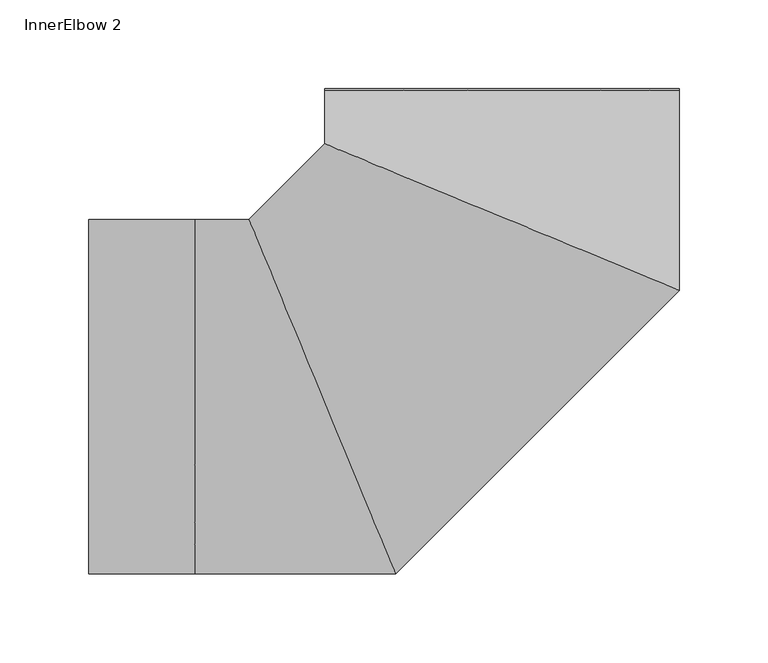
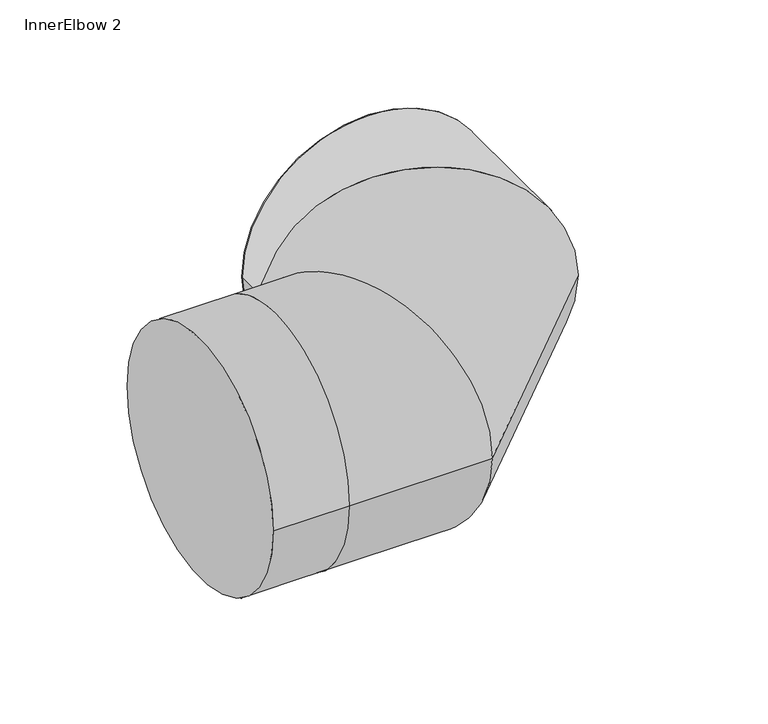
"""IFC4 building model written with IfcOpenShell, lengths in millimetres: pipe fitting geometry, CADS_Jeremias_InnerElbowSocket1 : InnerElbow 2."""

from ifc_helpers import new_model, si_unit, frame, origin, place, context, project, spatial, circle_curve, ellipse_curve, source, transform, mapped, element, save
from ifc_brep_helpers import plane_surface, cylinder_surface, advanced_brep


def innerelbow_2_ab31b819(model_context):
    return source(origin(), model_context, "Body", "AdvancedBrep", [
        advanced_brep(
        [(-233.2842712, -100.0, 0.0), (-233.2842712, 100.0, 0.0), (-173.2842712, -100.0, 0.0), (-173.2842712, 100.0, 0.0), (100.0, 174.0842712, 0.0), (-100.0, 174.0842712, 0.0), (-100.0, 173.2842712, 0.0), (100.0, 173.2842712, 0.0), (-60.0862197, -100.0, 0.0), (-142.9289322, 100.0, 0.0), (100.0, 60.0862197, 0.0), (-100.0, 142.9289322, 0.0)],
        [
            (0, 1, circle_curve(frame((-233.2842712, 0.0, 0.0), z_axis=(-1.0, 0.0, 0.0), x_axis=(0.0, 1.0, 0.0)), 100.0)),
            (1, 0, circle_curve(frame((-233.2842712, 0.0, 0.0), z_axis=(-1.0, 0.0, 0.0), x_axis=(0.0, 1.0, 0.0)), 100.0)),
            (0, 2),
            (2, 3, circle_curve(frame((-173.2842712, 0.0, 0.0), z_axis=(-1.0, 0.0, 0.0), x_axis=(0.0, 1.0, 0.0)), 100.0)),
            (3, 1),
            (3, 2, circle_curve(frame((-173.2842712, 0.0, 0.0), z_axis=(-1.0, 0.0, 0.0), x_axis=(0.0, 1.0, 0.0)), 100.0)),
            (4, 5, circle_curve(frame((0.0, 174.0842712, 0.0), z_axis=(0.0, 1.0, 0.0), x_axis=(-1.0, 0.0, 0.0)), 100.0)),
            (5, 4, circle_curve(frame((0.0, 174.0842712, 0.0), z_axis=(0.0, 1.0, 0.0), x_axis=(-1.0, 0.0, 0.0)), 100.0)),
            (6, 7, circle_curve(frame((0.0, 173.2842712, 0.0), z_axis=(0.0, 1.0, 0.0), x_axis=(-1.0, 0.0, 0.0)), 100.0)),
            (7, 4),
            (5, 6),
            (7, 6, circle_curve(frame((0.0, 173.2842712, 0.0), z_axis=(0.0, 1.0, 0.0), x_axis=(-1.0, 0.0, 0.0)), 100.0)),
            (2, 8),
            (8, 9, ellipse_curve(frame((-101.507576, 0.0, 0.0), z_axis=(-0.9238795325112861, -0.3826834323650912, 0.0), x_axis=(-0.38268343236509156, 0.9238795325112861, 0.0)), 108.23922, 100.0)),
            (9, 3),
            (9, 8, ellipse_curve(frame((-101.507576, 0.0, 0.0), z_axis=(-0.9238795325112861, -0.3826834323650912, 0.0), x_axis=(-0.38268343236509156, 0.9238795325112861, 0.0)), 108.23922, 100.0)),
            (8, 10),
            (10, 11, ellipse_curve(frame((0.0, 101.507576, 0.0), z_axis=(-0.382683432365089, -0.9238795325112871, 0.0), x_axis=(-0.9238795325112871, 0.38268343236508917, 0.0)), 108.23922, 100.0)),
            (11, 9),
            (11, 10, ellipse_curve(frame((0.0, 101.507576, 0.0), z_axis=(-0.382683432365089, -0.9238795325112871, 0.0), x_axis=(-0.9238795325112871, 0.38268343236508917, 0.0)), 108.23922, 100.0)),
            (10, 7),
            (6, 11),
        ],
        [
            plane_surface(frame((-233.2842712, 0.0, 0.0), z_axis=(-1.0, 0.0, 0.0), x_axis=(0.0, 0.0, 1.0))),
            cylinder_surface(frame((-233.2842712, 0.0, 0.0), z_axis=(-1.0, 0.0, 0.0), x_axis=(0.0, 1.0, 0.0)), 100.0),
            plane_surface(frame((0.0, 174.0842712, 0.0), z_axis=(0.0, 1.0, 0.0), x_axis=(0.0, 0.0, 1.0))),
            cylinder_surface(frame((0.0, 173.2842712, 0.0), z_axis=(0.0, -1.0, 0.0), x_axis=(-1.0, 0.0, 0.0)), 100.0),
            cylinder_surface(frame((-173.2842712, 0.0, 0.0), z_axis=(-1.0, 0.0, 0.0), x_axis=(0.0, 1.0, 0.0)), 100.0),
            cylinder_surface(frame((-101.507576, 0.0, 0.0), z_axis=(-0.7071067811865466, -0.7071067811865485, 0.0), x_axis=(-0.7071067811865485, 0.7071067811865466, 0.0)), 100.0),
            cylinder_surface(frame((0.0, 101.507576, 0.0), z_axis=(0.0, -1.0, 0.0), x_axis=(-1.0, 0.0, 0.0)), 100.0),
        ],
        [
            (0, [[1, 2]]),
            (1, [[-1, 3, 4, 5]]),
            (1, [[-2, -5, 6, -3]]),
            (2, [[7, 8]]),
            (3, [[9, 10, -8, 11]]),
            (3, [[12, -11, -7, -10]]),
            (4, [[-4, 13, 14, 15]]),
            (4, [[-6, -15, 16, -13]]),
            (5, [[-14, 17, 18, 19]]),
            (5, [[-16, -19, 20, -17]]),
            (6, [[-18, 21, -9, 22]]),
            (6, [[-20, -22, -12, -21]]),
        ],
    ),
    ])


if __name__ == "__main__":
    model = new_model("IFC4")
    model_context = context("Model", 3, world=origin())
    ifc_project = project(units=[si_unit("LENGTHUNIT", "METRE", prefix="MILLI")], contexts=[model_context])
    site = spatial("IfcSite", under=ifc_project)
    building = spatial("IfcBuilding", under=site)
    placement = place(None, origin())
    innerelbow_2_shape = innerelbow_2_ab31b819(model_context)
    element("IfcPipeFitting", 1, ObjectType="CADS_Jeremias_InnerElbowSocket1 : InnerElbow 2", at=placement, inside=building, context=model_context, shape_type="MappedRepresentation", body=[
        mapped(innerelbow_2_shape, transform((0.0, 0.0, 0.0), x_axis=(1.0, 0.0, 0.0), y_axis=(0.0, 1.0, 0.0), z_axis=(0.0, 0.0, 1.0))),
    ])
    save(model, "model.ifc")
